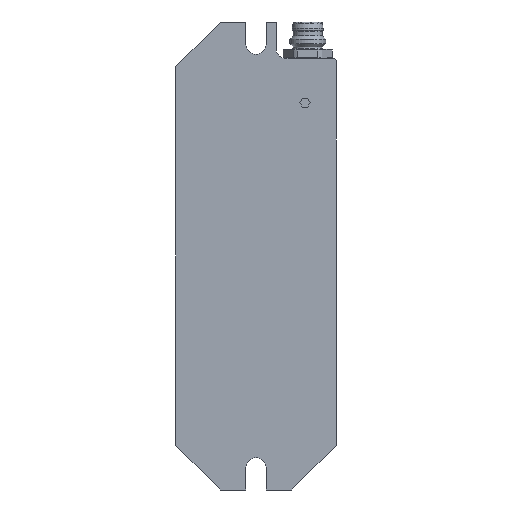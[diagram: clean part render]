
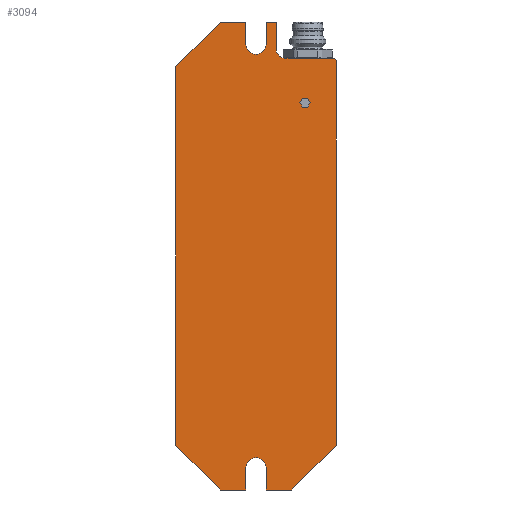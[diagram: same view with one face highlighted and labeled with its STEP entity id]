
A CAD part, front view. The second image highlights one B-rep face of the part: STEP entity #3094.
In plain terms, the highlighted planar face has unit normal (0, -1, 0).
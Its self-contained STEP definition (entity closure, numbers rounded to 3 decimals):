
#178=FACE_BOUND('',#598,.T.);
#248=CIRCLE('',#3331,0.85);
#249=CIRCLE('',#3332,2.);
#250=CIRCLE('',#3333,2.25);
#251=CIRCLE('',#3334,2.25);
#402=FACE_OUTER_BOUND('',#597,.T.);
#597=EDGE_LOOP('',(#2550,#2551,#2552,#2553,#2554,#2555,#2556,#2557,#2558,
#2559,#2560,#2561,#2562,#2563,#2564,#2565,#2566,#2567,#2568));
#598=EDGE_LOOP('',(#2569,#2570,#2571,#2572,#2573,#2574));
#673=LINE('',#4247,#955);
#677=LINE('',#4254,#959);
#680=LINE('',#4260,#962);
#683=LINE('',#4266,#965);
#686=LINE('',#4272,#968);
#688=LINE('',#4275,#970);
#840=LINE('',#5395,#1122);
#841=LINE('',#5399,#1123);
#842=LINE('',#5401,#1124);
#843=LINE('',#5403,#1125);
#844=LINE('',#5407,#1126);
#845=LINE('',#5409,#1127);
#846=LINE('',#5411,#1128);
#847=LINE('',#5413,#1129);
#848=LINE('',#5415,#1130);
#849=LINE('',#5417,#1131);
#850=LINE('',#5419,#1132);
#851=LINE('',#5423,#1133);
#852=LINE('',#5425,#1134);
#853=LINE('',#5427,#1135);
#854=LINE('',#5428,#1136);
#955=VECTOR('',#3445,10.);
#959=VECTOR('',#3451,10.);
#962=VECTOR('',#3456,10.);
#965=VECTOR('',#3461,10.);
#968=VECTOR('',#3466,10.);
#970=VECTOR('',#3470,10.);
#1122=VECTOR('',#3912,10.);
#1123=VECTOR('',#3915,10.);
#1124=VECTOR('',#3916,10.);
#1125=VECTOR('',#3917,10.);
#1126=VECTOR('',#3920,10.);
#1127=VECTOR('',#3921,10.);
#1128=VECTOR('',#3922,10.);
#1129=VECTOR('',#3923,10.);
#1130=VECTOR('',#3924,10.);
#1131=VECTOR('',#3925,10.);
#1132=VECTOR('',#3926,10.);
#1133=VECTOR('',#3929,10.);
#1134=VECTOR('',#3930,10.);
#1135=VECTOR('',#3931,10.);
#1136=VECTOR('',#3932,10.);
#1237=VERTEX_POINT('',#4244);
#1238=VERTEX_POINT('',#4246);
#1240=VERTEX_POINT('',#4252);
#1242=VERTEX_POINT('',#4258);
#1244=VERTEX_POINT('',#4264);
#1246=VERTEX_POINT('',#4270);
#1430=VERTEX_POINT('',#5391);
#1431=VERTEX_POINT('',#5392);
#1432=VERTEX_POINT('',#5394);
#1433=VERTEX_POINT('',#5396);
#1434=VERTEX_POINT('',#5398);
#1435=VERTEX_POINT('',#5400);
#1436=VERTEX_POINT('',#5402);
#1437=VERTEX_POINT('',#5404);
#1438=VERTEX_POINT('',#5406);
#1439=VERTEX_POINT('',#5408);
#1440=VERTEX_POINT('',#5410);
#1441=VERTEX_POINT('',#5412);
#1442=VERTEX_POINT('',#5414);
#1443=VERTEX_POINT('',#5416);
#1444=VERTEX_POINT('',#5418);
#1445=VERTEX_POINT('',#5420);
#1446=VERTEX_POINT('',#5422);
#1447=VERTEX_POINT('',#5424);
#1448=VERTEX_POINT('',#5426);
#1529=EDGE_CURVE('',#1238,#1237,#673,.T.);
#1533=EDGE_CURVE('',#1237,#1240,#677,.T.);
#1536=EDGE_CURVE('',#1240,#1242,#680,.T.);
#1539=EDGE_CURVE('',#1242,#1244,#683,.T.);
#1542=EDGE_CURVE('',#1244,#1246,#686,.T.);
#1544=EDGE_CURVE('',#1246,#1238,#688,.T.);
#1821=EDGE_CURVE('',#1430,#1431,#248,.T.);
#1822=EDGE_CURVE('',#1432,#1430,#840,.T.);
#1823=EDGE_CURVE('',#1433,#1432,#249,.T.);
#1824=EDGE_CURVE('',#1434,#1433,#841,.T.);
#1825=EDGE_CURVE('',#1435,#1434,#842,.T.);
#1826=EDGE_CURVE('',#1436,#1435,#843,.T.);
#1827=EDGE_CURVE('',#1437,#1436,#250,.T.);
#1828=EDGE_CURVE('',#1438,#1437,#844,.T.);
#1829=EDGE_CURVE('',#1439,#1438,#845,.T.);
#1830=EDGE_CURVE('',#1440,#1439,#846,.T.);
#1831=EDGE_CURVE('',#1441,#1440,#847,.T.);
#1832=EDGE_CURVE('',#1442,#1441,#848,.T.);
#1833=EDGE_CURVE('',#1443,#1442,#849,.T.);
#1834=EDGE_CURVE('',#1444,#1443,#850,.T.);
#1835=EDGE_CURVE('',#1445,#1444,#251,.T.);
#1836=EDGE_CURVE('',#1446,#1445,#851,.T.);
#1837=EDGE_CURVE('',#1447,#1446,#852,.T.);
#1838=EDGE_CURVE('',#1448,#1447,#853,.T.);
#1839=EDGE_CURVE('',#1431,#1448,#854,.T.);
#2550=ORIENTED_EDGE('',*,*,#1821,.F.);
#2551=ORIENTED_EDGE('',*,*,#1822,.F.);
#2552=ORIENTED_EDGE('',*,*,#1823,.F.);
#2553=ORIENTED_EDGE('',*,*,#1824,.F.);
#2554=ORIENTED_EDGE('',*,*,#1825,.F.);
#2555=ORIENTED_EDGE('',*,*,#1826,.F.);
#2556=ORIENTED_EDGE('',*,*,#1827,.F.);
#2557=ORIENTED_EDGE('',*,*,#1828,.F.);
#2558=ORIENTED_EDGE('',*,*,#1829,.F.);
#2559=ORIENTED_EDGE('',*,*,#1830,.F.);
#2560=ORIENTED_EDGE('',*,*,#1831,.F.);
#2561=ORIENTED_EDGE('',*,*,#1832,.F.);
#2562=ORIENTED_EDGE('',*,*,#1833,.F.);
#2563=ORIENTED_EDGE('',*,*,#1834,.F.);
#2564=ORIENTED_EDGE('',*,*,#1835,.F.);
#2565=ORIENTED_EDGE('',*,*,#1836,.F.);
#2566=ORIENTED_EDGE('',*,*,#1837,.F.);
#2567=ORIENTED_EDGE('',*,*,#1838,.F.);
#2568=ORIENTED_EDGE('',*,*,#1839,.F.);
#2569=ORIENTED_EDGE('',*,*,#1536,.T.);
#2570=ORIENTED_EDGE('',*,*,#1539,.T.);
#2571=ORIENTED_EDGE('',*,*,#1542,.T.);
#2572=ORIENTED_EDGE('',*,*,#1544,.T.);
#2573=ORIENTED_EDGE('',*,*,#1529,.T.);
#2574=ORIENTED_EDGE('',*,*,#1533,.T.);
#2935=PLANE('',#3330);
#3094=ADVANCED_FACE('',(#402,#178),#2935,.F.);
#3330=AXIS2_PLACEMENT_3D('',#5390,#3908,#3909);
#3331=AXIS2_PLACEMENT_3D('',#5393,#3910,#3911);
#3332=AXIS2_PLACEMENT_3D('',#5397,#3913,#3914);
#3333=AXIS2_PLACEMENT_3D('',#5405,#3918,#3919);
#3334=AXIS2_PLACEMENT_3D('',#5421,#3927,#3928);
#3445=DIRECTION('',(-0.5,0.,0.866));
#3451=DIRECTION('',(0.5,0.,0.866));
#3456=DIRECTION('',(1.,0.,0.));
#3461=DIRECTION('',(0.5,0.,-0.866));
#3466=DIRECTION('',(-0.5,0.,-0.866));
#3470=DIRECTION('',(-1.,0.,0.));
#3908=DIRECTION('center_axis',(0.,1.,0.));
#3909=DIRECTION('ref_axis',(0.,0.,1.));
#3910=DIRECTION('center_axis',(0.,1.,0.));
#3911=DIRECTION('ref_axis',(0.707,0.,0.707));
#3912=DIRECTION('',(1.,0.,0.));
#3913=DIRECTION('center_axis',(0.,-1.,0.));
#3914=DIRECTION('ref_axis',(-0.707,0.,-0.707));
#3915=DIRECTION('',(0.,0.,-1.));
#3916=DIRECTION('',(1.,0.,0.));
#3917=DIRECTION('',(0.,0.,1.));
#3918=DIRECTION('center_axis',(0.,-1.,0.));
#3919=DIRECTION('ref_axis',(-1.,0.,0.));
#3920=DIRECTION('',(0.,0.,-1.));
#3921=DIRECTION('',(1.,0.,0.));
#3922=DIRECTION('',(0.707,0.,0.707));
#3923=DIRECTION('',(0.,0.,1.));
#3924=DIRECTION('',(-0.707,0.,0.707));
#3925=DIRECTION('',(-1.,0.,0.));
#3926=DIRECTION('',(0.,0.,-1.));
#3927=DIRECTION('center_axis',(0.,-1.,0.));
#3928=DIRECTION('ref_axis',(1.,0.,0.));
#3929=DIRECTION('',(0.,0.,1.));
#3930=DIRECTION('',(-1.,0.,0.));
#3931=DIRECTION('',(-0.707,0.,-0.707));
#3932=DIRECTION('',(0.,0.,-1.));
#4244=CARTESIAN_POINT('',(9.845,0.,34.4));
#4246=CARTESIAN_POINT('',(10.423,0.,33.4));
#4247=CARTESIAN_POINT('',(10.028,0.,34.083));
#4252=CARTESIAN_POINT('',(10.423,0.,35.4));
#4254=CARTESIAN_POINT('',(9.74,0.,34.217));
#4258=CARTESIAN_POINT('',(11.577,0.,35.4));
#4260=CARTESIAN_POINT('',(9.711,0.,35.4));
#4264=CARTESIAN_POINT('',(12.155,0.,34.4));
#4266=CARTESIAN_POINT('',(11.472,0.,35.583));
#4270=CARTESIAN_POINT('',(11.577,0.,33.4));
#4272=CARTESIAN_POINT('',(11.76,0.,33.717));
#4275=CARTESIAN_POINT('',(10.289,0.,33.4));
#5390=CARTESIAN_POINT('Origin',(0.,0.,0.));
#5391=CARTESIAN_POINT('',(17.15,0.,44.4));
#5392=CARTESIAN_POINT('',(18.,0.,43.55));
#5393=CARTESIAN_POINT('Origin',(17.15,0.,43.55));
#5394=CARTESIAN_POINT('',(6.5,0.,44.4));
#5395=CARTESIAN_POINT('',(4.5,0.,44.4));
#5396=CARTESIAN_POINT('',(4.5,0.,46.4));
#5397=CARTESIAN_POINT('Origin',(6.5,0.,46.4));
#5398=CARTESIAN_POINT('',(4.5,0.,52.5));
#5399=CARTESIAN_POINT('',(4.5,0.,52.5));
#5400=CARTESIAN_POINT('',(2.25,0.,52.5));
#5401=CARTESIAN_POINT('',(2.25,0.,52.5));
#5402=CARTESIAN_POINT('',(2.25,0.,47.5));
#5403=CARTESIAN_POINT('',(2.25,0.,47.5));
#5404=CARTESIAN_POINT('',(-2.25,0.,47.5));
#5405=CARTESIAN_POINT('Origin',(0.,0.,47.5));
#5406=CARTESIAN_POINT('',(-2.25,0.,52.5));
#5407=CARTESIAN_POINT('',(-2.25,0.,52.5));
#5408=CARTESIAN_POINT('',(-8.,0.,52.5));
#5409=CARTESIAN_POINT('',(-18.,0.,52.5));
#5410=CARTESIAN_POINT('',(-18.,0.,42.5));
#5411=CARTESIAN_POINT('',(-21.625,0.,38.875));
#5412=CARTESIAN_POINT('',(-18.,0.,-42.5));
#5413=CARTESIAN_POINT('',(-18.,0.,-52.5));
#5414=CARTESIAN_POINT('',(-8.,0.,-52.5));
#5415=CARTESIAN_POINT('',(-21.625,0.,-38.875));
#5416=CARTESIAN_POINT('',(-2.25,0.,-52.5));
#5417=CARTESIAN_POINT('',(-2.25,0.,-52.5));
#5418=CARTESIAN_POINT('',(-2.25,0.,-47.5));
#5419=CARTESIAN_POINT('',(-2.25,0.,-47.5));
#5420=CARTESIAN_POINT('',(2.25,0.,-47.5));
#5421=CARTESIAN_POINT('Origin',(0.,0.,-47.5));
#5422=CARTESIAN_POINT('',(2.25,0.,-52.5));
#5423=CARTESIAN_POINT('',(2.25,0.,-52.5));
#5424=CARTESIAN_POINT('',(8.,0.,-52.5));
#5425=CARTESIAN_POINT('',(18.,0.,-52.5));
#5426=CARTESIAN_POINT('',(18.,0.,-42.5));
#5427=CARTESIAN_POINT('',(21.625,0.,-38.875));
#5428=CARTESIAN_POINT('',(18.,0.,44.4));
